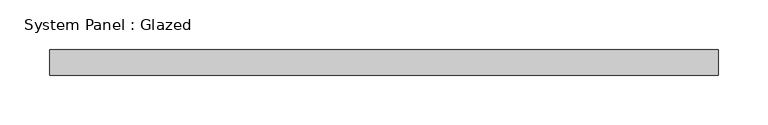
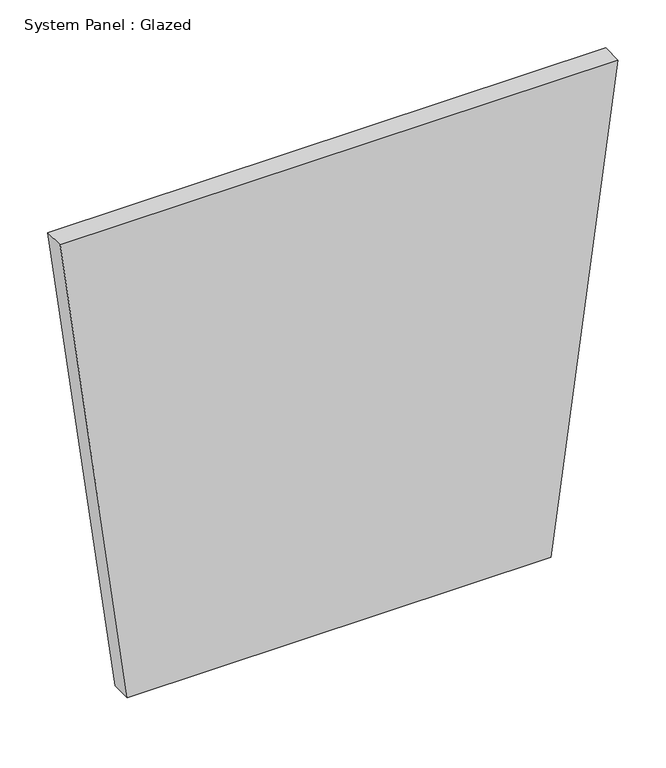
"""IFC4 building model written with IfcOpenShell, lengths in millimetres: plate geometry, System Panel : Glazed."""

from ifc_helpers import new_model, si_unit, frame, origin, place, context, project, spatial, polyline, outline, extrude, source, transform, mapped, element, save


def system_panel_glazed_061b48de(model_context):
    return source(origin(), model_context, "Body", "SweptSolid", [
        extrude(outline(polyline([(0.0, -254.8723899), (0.0, 254.8723899), (604.1973941, 335.8518257), (604.1973941, -335.8518257), (0.0, -254.8723899)])), frame((0.0, -44.45, 0.0), z_axis=(0.0, 1.0, 0.0), x_axis=(0.0, 0.0, 1.0)), (0.0, 0.0, 1.0), 25.4),
    ])


if __name__ == "__main__":
    model = new_model("IFC4")
    model_context = context("Model", 3, world=origin())
    ifc_project = project(units=[si_unit("LENGTHUNIT", "METRE", prefix="MILLI")], contexts=[model_context])
    site = spatial("IfcSite", under=ifc_project)
    building = spatial("IfcBuilding", under=site)
    placement = place(None, origin())
    system_panel_glazed_shape = system_panel_glazed_061b48de(model_context)
    element("IfcPlate", 1, ObjectType="System Panel : Glazed", at=placement, inside=building, context=model_context, shape_type="MappedRepresentation", body=[
        mapped(system_panel_glazed_shape, transform((0.0, 0.0, 0.0), x_axis=(1.0, 0.0, 0.0), y_axis=(0.0, 1.0, 0.0), z_axis=(0.0, 0.0, 1.0))),
    ])
    save(model, "model.ifc")
